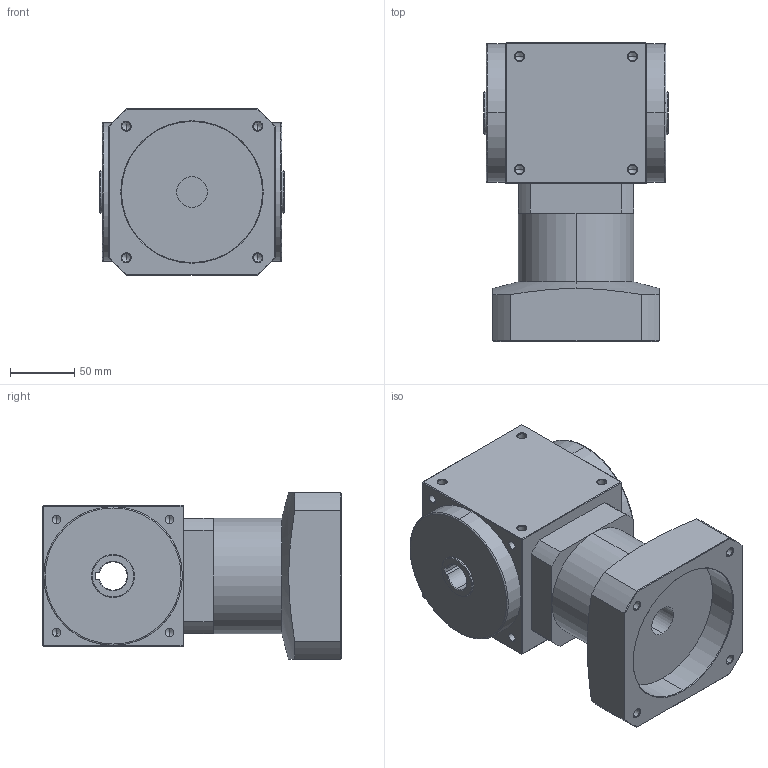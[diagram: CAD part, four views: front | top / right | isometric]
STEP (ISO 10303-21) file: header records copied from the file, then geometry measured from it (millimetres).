
FILE_DESCRIPTION (( 'STEP AP214' ), '1' );
FILE_NAME ('AT110-FH-L1 -22-110-145-m8.STEP', '2020-11-10T03:33:58', ( '微软用户' ), ( '微软中国' ), 'SwSTEP 2.0', 'SolidWorks 2014', '' );
FILE_SCHEMA (( 'AUTOMOTIVE_DESIGN' ));
Length unit declared in the file: millimetre
Products named in the file (2): AT110-FH-L1 -22-110-145-m8
Bounding box: 144 x 233 x 130 mm (x, y, z)
Volume: 2550532.8 mm3; surface area: 173390.1 mm2
Topology: 1 solids, 1 shells, 251 faces, 648 edges, 358 vertices
Faces by surface type: cylinder 113, cone 82, plane 52, bspline 4
Entity records: 10084 total; most frequent: CARTESIAN_POINT 1717, ORIENTED_EDGE 1200, DIRECTION 1156, EDGE_CURVE 600, AXIS2_PLACEMENT_3D 441, VERTEX_POINT 358, EDGE_LOOP 284, LINE 274
